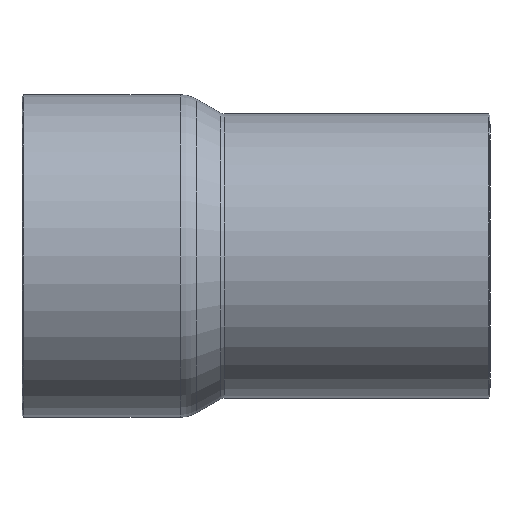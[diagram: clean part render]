
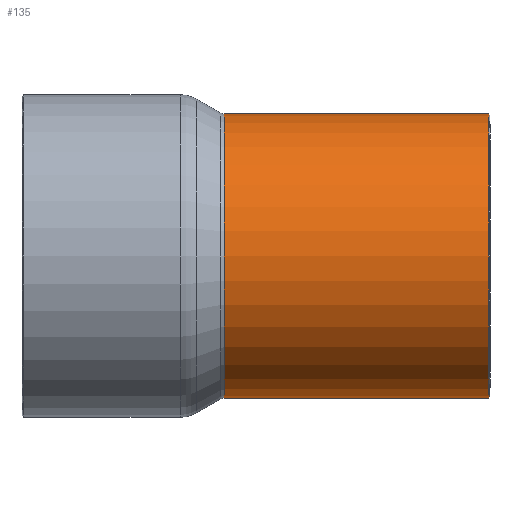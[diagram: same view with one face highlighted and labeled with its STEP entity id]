
A CAD part, front view. The second image highlights one B-rep face of the part: STEP entity #135.
In plain terms, the highlighted cylindrical face has radius 20.635 mm (diameter 41.27 mm), a full revolution.
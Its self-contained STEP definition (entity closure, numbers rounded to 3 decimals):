
#73=CARTESIAN_POINT('',(35.8,20.635,0.));
#74=VERTEX_POINT('',#73);
#75=CARTESIAN_POINT('',(35.8,0.0,0.0));
#76=DIRECTION('',(1.0,0.0,0.0));
#77=DIRECTION('',(0.0,-1.0,0.0));
#78=AXIS2_PLACEMENT_3D('',#75,#76,#77);
#79=CIRCLE('',#78,20.635);
#80=EDGE_CURVE('',#74,#74,#79,.T.);
#116=CARTESIAN_POINT('',(16.682,0.0,0.0));
#117=DIRECTION('',(1.0,0.0,0.0));
#118=DIRECTION('',(0.0,1.0,0.0));
#119=AXIS2_PLACEMENT_3D('',#116,#117,#118);
#120=CYLINDRICAL_SURFACE('',#119,20.635);
#121=CARTESIAN_POINT('',(-2.636,20.635,0.0));
#122=VERTEX_POINT('',#121);
#123=CARTESIAN_POINT('',(-2.636,0.0,0.0));
#124=DIRECTION('',(1.0,0.0,0.0));
#125=DIRECTION('',(0.0,1.0,0.0));
#126=AXIS2_PLACEMENT_3D('',#123,#124,#125);
#127=CIRCLE('',#126,20.635);
#128=EDGE_CURVE('',#122,#122,#127,.T.);
#129=ORIENTED_EDGE('',*,*,#128,.T.);
#130=EDGE_LOOP('',(#129));
#131=FACE_OUTER_BOUND('',#130,.T.);
#132=ORIENTED_EDGE('',*,*,#80,.F.);
#133=EDGE_LOOP('',(#132));
#134=FACE_BOUND('',#133,.T.);
#135=ADVANCED_FACE('',(#131,#134),#120,.T.);
